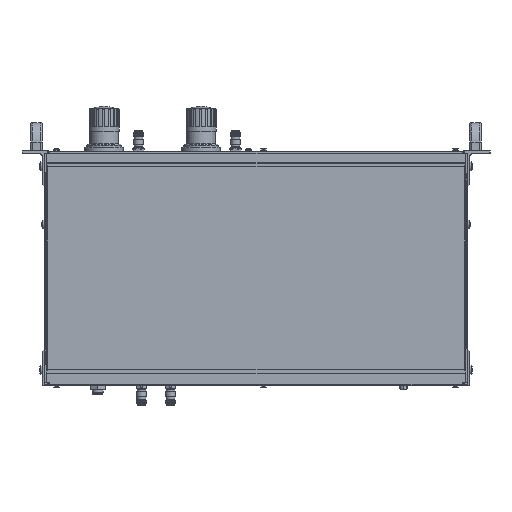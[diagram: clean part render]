
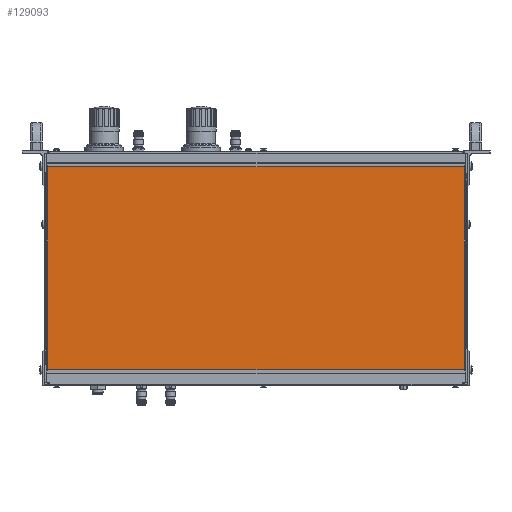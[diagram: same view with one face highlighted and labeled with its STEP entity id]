
A CAD part, front view. The second image highlights one B-rep face of the part: STEP entity #129093.
In plain terms, the highlighted planar face has unit normal (0, -1, 0).
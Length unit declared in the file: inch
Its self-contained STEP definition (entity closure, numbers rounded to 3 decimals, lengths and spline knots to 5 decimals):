
#5705 = AXIS2_PLACEMENT_3D ( 'NONE', #131455, #157721, #79540 ) ;
#8311 = EDGE_CURVE ( 'NONE', #11555, #85698, #44426, .T. ) ;
#10055 = DIRECTION ( 'NONE',  ( -1., 0., 0. ) ) ;
#11409 = EDGE_CURVE ( 'NONE', #85698, #140680, #45758, .T. ) ;
#11555 = VERTEX_POINT ( 'NONE', #148327 ) ;
#14370 = CARTESIAN_POINT ( 'NONE',  ( 0.05065, -2.61024, -3.92277 ) ) ;
#17903 = VECTOR ( 'NONE', #10055, 39.37008 ) ;
#24527 = LINE ( 'NONE', #14370, #98110 ) ;
#28894 = CARTESIAN_POINT ( 'NONE',  ( 0.05065, -2.61024, 4.31451 ) ) ;
#32330 = VERTEX_POINT ( 'NONE', #85294 ) ;
#38399 = DIRECTION ( 'NONE',  ( 0., 0., 1. ) ) ;
#44426 = LINE ( 'NONE', #88273, #17903 ) ;
#45758 = LINE ( 'NONE', #92479, #111080 ) ;
#53685 = DIRECTION ( 'NONE',  ( 0., 0., -1. ) ) ;
#54588 = FACE_OUTER_BOUND ( 'NONE', #164557, .T. ) ;
#65545 = ORIENTED_EDGE ( 'NONE', *, *, #8311, .T. ) ;
#79540 = DIRECTION ( 'NONE',  ( -1., 0., 0. ) ) ;
#81175 = VECTOR ( 'NONE', #38399, 39.37008 ) ;
#85271 = LINE ( 'NONE', #142848, #81175 ) ;
#85294 = CARTESIAN_POINT ( 'NONE',  ( 16.95328, -2.61024, -3.92277 ) ) ;
#85698 = VERTEX_POINT ( 'NONE', #28894 ) ;
#88273 = CARTESIAN_POINT ( 'NONE',  ( 16.95328, -2.61024, 4.31451 ) ) ;
#92479 = CARTESIAN_POINT ( 'NONE',  ( 0.05065, -2.61024, 4.36319 ) ) ;
#92548 = DIRECTION ( 'NONE',  ( 1., 0., 0. ) ) ;
#98110 = VECTOR ( 'NONE', #92548, 39.37008 ) ;
#98632 = EDGE_CURVE ( 'NONE', #32330, #11555, #85271, .T. ) ;
#111080 = VECTOR ( 'NONE', #53685, 39.37008 ) ;
#129093 = ADVANCED_FACE ( 'NONE', ( #54588 ), #144591, .F. ) ;
#131455 = CARTESIAN_POINT ( 'NONE',  ( 0.00197, -2.61024, -3.97146 ) ) ;
#140680 = VERTEX_POINT ( 'NONE', #150638 ) ;
#142848 = CARTESIAN_POINT ( 'NONE',  ( 16.95328, -2.61024, -3.97146 ) ) ;
#144591 = PLANE ( 'NONE',  #5705 ) ;
#145468 = EDGE_CURVE ( 'NONE', #140680, #32330, #24527, .T. ) ;
#148327 = CARTESIAN_POINT ( 'NONE',  ( 16.95328, -2.61024, 4.31451 ) ) ;
#150638 = CARTESIAN_POINT ( 'NONE',  ( 0.05065, -2.61024, -3.92277 ) ) ;
#157006 = ORIENTED_EDGE ( 'NONE', *, *, #98632, .T. ) ;
#157721 = DIRECTION ( 'NONE',  ( 0., 1., 0. ) ) ;
#161236 = ORIENTED_EDGE ( 'NONE', *, *, #145468, .T. ) ;
#163984 = ORIENTED_EDGE ( 'NONE', *, *, #11409, .T. ) ;
#164557 = EDGE_LOOP ( 'NONE', ( #65545, #163984, #161236, #157006 ) ) ;
